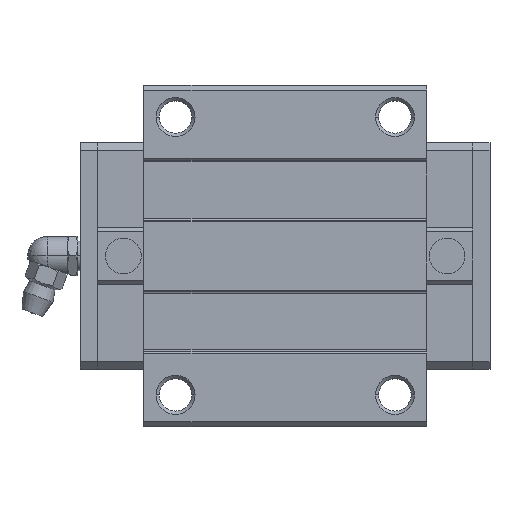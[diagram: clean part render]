
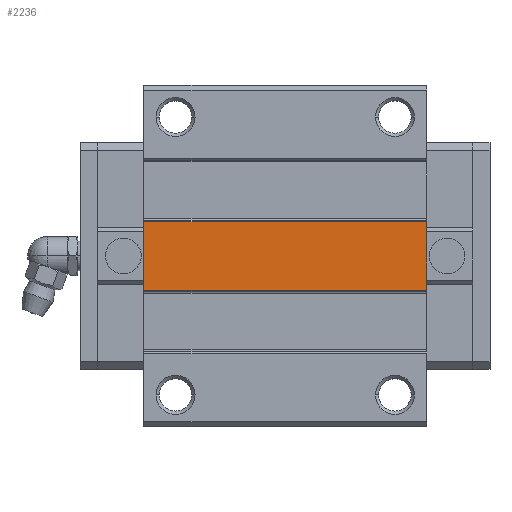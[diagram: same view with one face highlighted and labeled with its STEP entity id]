
A CAD part, top view. The second image highlights one B-rep face of the part: STEP entity #2236.
In plain terms, the highlighted planar face has unit normal (0, 0, 1).
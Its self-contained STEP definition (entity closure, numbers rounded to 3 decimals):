
#2175=CARTESIAN_POINT('POINT142',(71.,-7.013,30.5));
#2176=VERTEX_POINT('VERTEX142',#2175);
#2183=CARTESIAN_POINT('POINT143',(13.,-7.013,30.5));
#2184=VERTEX_POINT('VERTEX143',#2183);
#2185=CARTESIAN_POINT('POS217',(13.,-7.013,30.5));
#2186=DIRECTION('DIR311',(1.,0.,0.));
#2187=VECTOR('VEC123',#2186,1.);
#2188=LINE('STRAIGHT123',#2185,#2187);
#2189=EDGE_CURVE('EDGE210',#2184,#2176,#2188,.T.);
#2206=CARTESIAN_POINT('POINT144',(71.,7.,30.5));
#2207=VERTEX_POINT('VERTEX144',#2206);
#2208=CARTESIAN_POINT('POS220',(71.,7.,30.5));
#2209=DIRECTION('DIR315',(0.,1.,0.));
#2210=VECTOR('VEC125',#2209,1.);
#2211=LINE('STRAIGHT125',#2208,#2210);
#2212=EDGE_CURVE('EDGE212',#2176,#2207,#2211,.T.);
#2213=ORIENTED_EDGE('COEDGE360',*,*,#2212,.T.);
#2214=CARTESIAN_POINT('POINT145',(13.,7.,30.5));
#2215=VERTEX_POINT('VERTEX145',#2214);
#2216=CARTESIAN_POINT('POS221',(13.,7.,30.5));
#2217=DIRECTION('DIR316',(1.,0.,0.));
#2218=VECTOR('VEC126',#2217,1.);
#2219=LINE('STRAIGHT126',#2216,#2218);
#2220=EDGE_CURVE('EDGE213',#2215,#2207,#2219,.T.);
#2221=ORIENTED_EDGE('COEDGE361',*,*,#2220,.F.);
#2222=CARTESIAN_POINT('POS222',(13.,7.,30.5));
#2223=DIRECTION('DIR317',(0.,-1.,0.));
#2224=VECTOR('VEC127',#2223,1.);
#2225=LINE('STRAIGHT127',#2222,#2224);
#2226=EDGE_CURVE('EDGE214',#2215,#2184,#2225,.T.);
#2227=ORIENTED_EDGE('COEDGE362',*,*,#2226,.T.);
#2228=ORIENTED_EDGE('COEDGE363',*,*,#2189,.T.);
#2229=EDGE_LOOP('NONE',(#2213,#2221,#2227,#2228));
#2230=FACE_BOUND('LOOP1',#2229,.T.);
#2231=CARTESIAN_POINT('POS223',(13.,-7.013,30.5));
#2232=DIRECTION('DIR318',(0.,0.,1.));
#2233=DIRECTION('DIR319',(1.,0.,0.));
#2234=AXIS2_PLACEMENT_3D('AXIS96',#2231,#2232,#2233);
#2235=PLANE('PLANE26',#2234);
#2236=ADVANCED_FACE('FACE71',(#2230),#2235,.T.);
